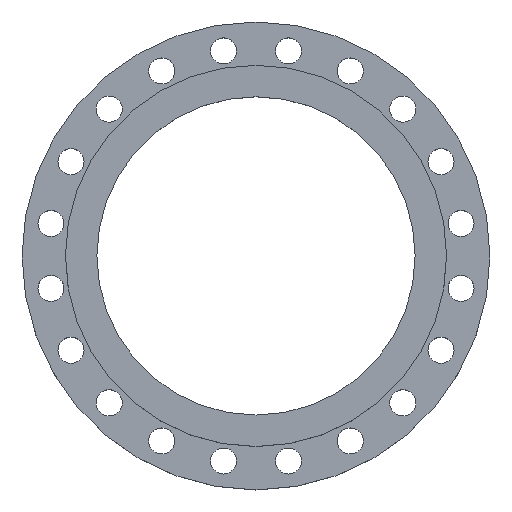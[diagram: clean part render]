
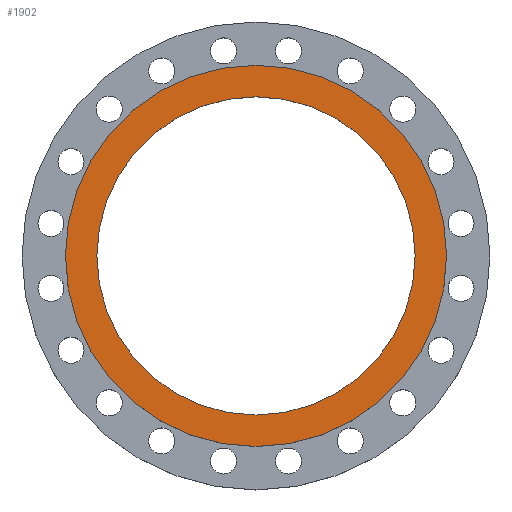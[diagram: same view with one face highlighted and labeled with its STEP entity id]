
A CAD part, top view. The second image highlights one B-rep face of the part: STEP entity #1902.
In plain terms, the highlighted planar face has unit normal (0, 0, 1).
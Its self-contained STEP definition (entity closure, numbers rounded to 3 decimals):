
#45 = CARTESIAN_POINT ( 'NONE',  ( 0., 0., 50. ) ) ;
#236 = DIRECTION ( 'NONE',  ( 0., 0., -1. ) ) ;
#318 = AXIS2_PLACEMENT_3D ( 'NONE', #1415, #1851, #621 ) ;
#372 = AXIS2_PLACEMENT_3D ( 'NONE', #1704, #236, #1121 ) ;
#415 = CIRCLE ( 'NONE', #372, 307.5 ) ;
#561 = AXIS2_PLACEMENT_3D ( 'NONE', #45, #952, #1470 ) ;
#621 = DIRECTION ( 'NONE',  ( -1., 0., 0. ) ) ;
#741 = DIRECTION ( 'NONE',  ( -1., 0., 0. ) ) ;
#761 = CIRCLE ( 'NONE', #561, 307.5 ) ;
#821 = CARTESIAN_POINT ( 'NONE',  ( 256.75, 0., 50. ) ) ;
#946 = EDGE_LOOP ( 'NONE', ( #1534, #1535 ) ) ;
#952 = DIRECTION ( 'NONE',  ( 0., 0., -1. ) ) ;
#979 = EDGE_LOOP ( 'NONE', ( #1528, #1529 ) ) ;
#1039 = FACE_OUTER_BOUND ( 'NONE', #979, .T. ) ;
#1121 = DIRECTION ( 'NONE',  ( -1., 0., 0. ) ) ;
#1219 = VERTEX_POINT ( 'NONE', #1515 ) ;
#1223 = VERTEX_POINT ( 'NONE', #1384 ) ;
#1310 = VERTEX_POINT ( 'NONE', #1563 ) ;
#1384 = CARTESIAN_POINT ( 'NONE',  ( -256.75, 0., 50. ) ) ;
#1393 = CARTESIAN_POINT ( 'NONE',  ( 256.75, 0., 50. ) ) ;
#1401 = DIRECTION ( 'NONE',  ( 0., 0., -1. ) ) ;
#1415 = CARTESIAN_POINT ( 'NONE',  ( 0., 0., 50. ) ) ;
#1470 = DIRECTION ( 'NONE',  ( -1., 0., 0. ) ) ;
#1471 = CARTESIAN_POINT ( 'NONE',  ( 0., 0., 50. ) ) ;
#1515 = CARTESIAN_POINT ( 'NONE',  ( -307.5, 0., 50. ) ) ;
#1528 = ORIENTED_EDGE ( 'NONE', *, *, #1811, .F. ) ;
#1529 = ORIENTED_EDGE ( 'NONE', *, *, #1788, .F. ) ;
#1532 = EDGE_CURVE ( 'NONE', #1223, #1640, #1769, .T. ) ;
#1534 = ORIENTED_EDGE ( 'NONE', *, *, #1532, .T. ) ;
#1535 = ORIENTED_EDGE ( 'NONE', *, *, #1697, .T. ) ;
#1538 = FACE_BOUND ( 'NONE', #946, .T. ) ;
#1563 = CARTESIAN_POINT ( 'NONE',  ( 307.5, 0., 50. ) ) ;
#1640 = VERTEX_POINT ( 'NONE', #1393 ) ;
#1697 = EDGE_CURVE ( 'NONE', #1640, #1223, #1825, .T. ) ;
#1704 = CARTESIAN_POINT ( 'NONE',  ( 0., 0., 50. ) ) ;
#1769 = CIRCLE ( 'NONE', #1771, 256.75 ) ;
#1771 = AXIS2_PLACEMENT_3D ( 'NONE', #1471, #1879, #741 ) ;
#1774 = AXIS2_PLACEMENT_3D ( 'NONE', #821, #1401, #1846 ) ;
#1788 = EDGE_CURVE ( 'NONE', #1310, #1219, #415, .T. ) ;
#1811 = EDGE_CURVE ( 'NONE', #1219, #1310, #761, .T. ) ;
#1825 = CIRCLE ( 'NONE', #318, 256.75 ) ;
#1846 = DIRECTION ( 'NONE',  ( -1., 0., 0. ) ) ;
#1851 = DIRECTION ( 'NONE',  ( 0., 0., -1. ) ) ;
#1879 = DIRECTION ( 'NONE',  ( 0., 0., -1. ) ) ;
#1900 = PLANE ( 'NONE',  #1774 ) ;
#1902 = ADVANCED_FACE ( 'NONE', ( #1039, #1538 ), #1900, .F. ) ;
